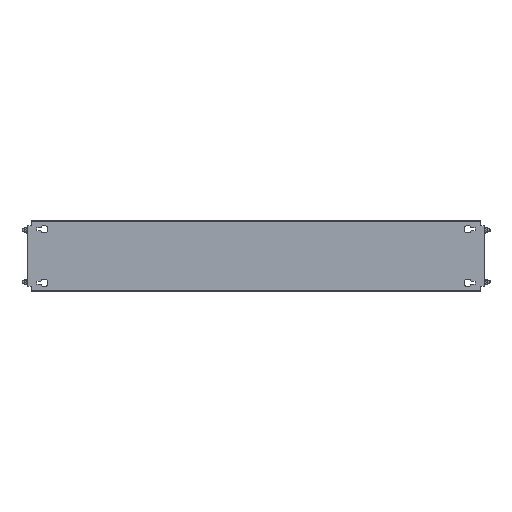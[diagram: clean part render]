
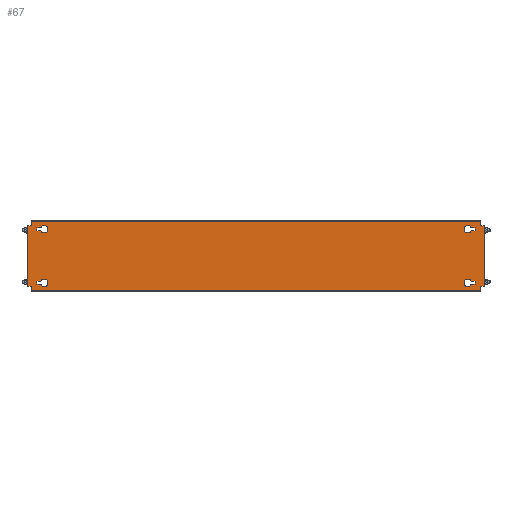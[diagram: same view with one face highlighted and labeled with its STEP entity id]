
A CAD part, top view. The second image highlights one B-rep face of the part: STEP entity #67.
In plain terms, the highlighted planar face has unit normal (0, 0, 1).
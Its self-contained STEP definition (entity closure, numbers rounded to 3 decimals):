
#67 = ADVANCED_FACE('',(#68,#103,#138,#300,#335),#370,.T.);
#68 = FACE_BOUND('',#69,.T.);
#69 = EDGE_LOOP('',(#70,#80,#88,#96));
#70 = ORIENTED_EDGE('',*,*,#71,.T.);
#71 = EDGE_CURVE('',#72,#74,#76,.T.);
#72 = VERTEX_POINT('',#73);
#73 = CARTESIAN_POINT('',(518.393,67.75,2.5));
#74 = VERTEX_POINT('',#75);
#75 = CARTESIAN_POINT('',(528.,67.75,2.5));
#76 = LINE('',#77,#78);
#77 = CARTESIAN_POINT('',(527.,67.75,2.5));
#78 = VECTOR('',#79,1.);
#79 = DIRECTION('',(1.,0.,0.));
#80 = ORIENTED_EDGE('',*,*,#81,.T.);
#81 = EDGE_CURVE('',#74,#82,#84,.T.);
#82 = VERTEX_POINT('',#83);
#83 = CARTESIAN_POINT('',(528.,61.25,2.5));
#84 = LINE('',#85,#86);
#85 = CARTESIAN_POINT('',(528.,67.75,2.5));
#86 = VECTOR('',#87,1.);
#87 = DIRECTION('',(0.,-1.,0.));
#88 = ORIENTED_EDGE('',*,*,#89,.T.);
#89 = EDGE_CURVE('',#82,#90,#92,.T.);
#90 = VERTEX_POINT('',#91);
#91 = CARTESIAN_POINT('',(518.393,61.25,2.5));
#92 = LINE('',#93,#94);
#93 = CARTESIAN_POINT('',(527.,61.25,2.5));
#94 = VECTOR('',#95,1.);
#95 = DIRECTION('',(-1.,0.,0.));
#96 = ORIENTED_EDGE('',*,*,#97,.T.);
#97 = EDGE_CURVE('',#90,#72,#98,.T.);
#98 = CIRCLE('',#99,9.);
#99 = AXIS2_PLACEMENT_3D('',#100,#101,#102);
#100 = CARTESIAN_POINT('',(510.,64.5,2.5));
#101 = DIRECTION('',(0.,0.,-1.));
#102 = DIRECTION('',(1.,0.,0.));
#103 = FACE_BOUND('',#104,.T.);
#104 = EDGE_LOOP('',(#105,#115,#123,#131));
#105 = ORIENTED_EDGE('',*,*,#106,.T.);
#106 = EDGE_CURVE('',#107,#109,#111,.T.);
#107 = VERTEX_POINT('',#108);
#108 = CARTESIAN_POINT('',(-518.393,-67.75,2.5));
#109 = VERTEX_POINT('',#110);
#110 = CARTESIAN_POINT('',(-528.,-67.75,2.5));
#111 = LINE('',#112,#113);
#112 = CARTESIAN_POINT('',(-527.,-67.75,2.5));
#113 = VECTOR('',#114,1.);
#114 = DIRECTION('',(-1.,0.,0.));
#115 = ORIENTED_EDGE('',*,*,#116,.T.);
#116 = EDGE_CURVE('',#109,#117,#119,.T.);
#117 = VERTEX_POINT('',#118);
#118 = CARTESIAN_POINT('',(-528.,-61.25,2.5));
#119 = LINE('',#120,#121);
#120 = CARTESIAN_POINT('',(-528.,-67.75,2.5));
#121 = VECTOR('',#122,1.);
#122 = DIRECTION('',(0.,1.,0.));
#123 = ORIENTED_EDGE('',*,*,#124,.T.);
#124 = EDGE_CURVE('',#117,#125,#127,.T.);
#125 = VERTEX_POINT('',#126);
#126 = CARTESIAN_POINT('',(-518.393,-61.25,2.5));
#127 = LINE('',#128,#129);
#128 = CARTESIAN_POINT('',(-527.,-61.25,2.5));
#129 = VECTOR('',#130,1.);
#130 = DIRECTION('',(1.,-0.,-0.));
#131 = ORIENTED_EDGE('',*,*,#132,.T.);
#132 = EDGE_CURVE('',#125,#107,#133,.T.);
#133 = CIRCLE('',#134,9.);
#134 = AXIS2_PLACEMENT_3D('',#135,#136,#137);
#135 = CARTESIAN_POINT('',(-510.,-64.5,2.5));
#136 = DIRECTION('',(0.,0.,-1.));
#137 = DIRECTION('',(-1.,0.,0.));
#138 = FACE_BOUND('',#139,.T.);
#139 = EDGE_LOOP('',(#140,#150,#158,#166,#174,#182,#190,#198,#206,#214,
    #222,#230,#238,#246,#254,#262,#270,#278,#286,#294));
#140 = ORIENTED_EDGE('',*,*,#141,.F.);
#141 = EDGE_CURVE('',#142,#144,#146,.T.);
#142 = VERTEX_POINT('',#143);
#143 = CARTESIAN_POINT('',(-546.9,72.5,2.5));
#144 = VERTEX_POINT('',#145);
#145 = CARTESIAN_POINT('',(-541.5,72.5,2.5));
#146 = LINE('',#147,#148);
#147 = CARTESIAN_POINT('',(-547.5,72.5,2.5));
#148 = VECTOR('',#149,1.);
#149 = DIRECTION('',(1.,0.,-0.));
#150 = ORIENTED_EDGE('',*,*,#151,.T.);
#151 = EDGE_CURVE('',#142,#152,#154,.T.);
#152 = VERTEX_POINT('',#153);
#153 = CARTESIAN_POINT('',(-550.,72.5,2.5));
#154 = LINE('',#155,#156);
#155 = CARTESIAN_POINT('',(-546.9,72.5,2.5));
#156 = VECTOR('',#157,1.);
#157 = DIRECTION('',(-1.,0.,0.));
#158 = ORIENTED_EDGE('',*,*,#159,.F.);
#159 = EDGE_CURVE('',#160,#152,#162,.T.);
#160 = VERTEX_POINT('',#161);
#161 = CARTESIAN_POINT('',(-550.,-72.5,2.5));
#162 = LINE('',#163,#164);
#163 = CARTESIAN_POINT('',(-550.,-82.,2.5));
#164 = VECTOR('',#165,1.);
#165 = DIRECTION('',(-0.,1.,-0.));
#166 = ORIENTED_EDGE('',*,*,#167,.F.);
#167 = EDGE_CURVE('',#168,#160,#170,.T.);
#168 = VERTEX_POINT('',#169);
#169 = CARTESIAN_POINT('',(-546.9,-72.5,2.5));
#170 = LINE('',#171,#172);
#171 = CARTESIAN_POINT('',(-541.5,-72.5,2.5));
#172 = VECTOR('',#173,1.);
#173 = DIRECTION('',(-1.,-0.,-0.));
#174 = ORIENTED_EDGE('',*,*,#175,.T.);
#175 = EDGE_CURVE('',#168,#176,#178,.T.);
#176 = VERTEX_POINT('',#177);
#177 = CARTESIAN_POINT('',(-541.5,-72.5,2.5));
#178 = LINE('',#179,#180);
#179 = CARTESIAN_POINT('',(-547.5,-72.5,2.5));
#180 = VECTOR('',#181,1.);
#181 = DIRECTION('',(1.,0.,-0.));
#182 = ORIENTED_EDGE('',*,*,#183,.T.);
#183 = EDGE_CURVE('',#176,#184,#186,.T.);
#184 = VERTEX_POINT('',#185);
#185 = CARTESIAN_POINT('',(-541.5,-81.4,2.5));
#186 = LINE('',#187,#188);
#187 = CARTESIAN_POINT('',(-541.5,82.,2.5));
#188 = VECTOR('',#189,1.);
#189 = DIRECTION('',(0.,-1.,0.));
#190 = ORIENTED_EDGE('',*,*,#191,.T.);
#191 = EDGE_CURVE('',#184,#192,#194,.T.);
#192 = VERTEX_POINT('',#193);
#193 = CARTESIAN_POINT('',(-541.5,-82.,2.5));
#194 = LINE('',#195,#196);
#195 = CARTESIAN_POINT('',(-541.5,-81.4,2.5));
#196 = VECTOR('',#197,1.);
#197 = DIRECTION('',(-0.,-1.,-0.));
#198 = ORIENTED_EDGE('',*,*,#199,.T.);
#199 = EDGE_CURVE('',#192,#200,#202,.T.);
#200 = VERTEX_POINT('',#201);
#201 = CARTESIAN_POINT('',(541.5,-82.,2.5));
#202 = LINE('',#203,#204);
#203 = CARTESIAN_POINT('',(541.5,-82.,2.5));
#204 = VECTOR('',#205,1.);
#205 = DIRECTION('',(1.,0.,0.));
#206 = ORIENTED_EDGE('',*,*,#207,.F.);
#207 = EDGE_CURVE('',#208,#200,#210,.T.);
#208 = VERTEX_POINT('',#209);
#209 = CARTESIAN_POINT('',(541.5,-81.4,2.5));
#210 = LINE('',#211,#212);
#211 = CARTESIAN_POINT('',(541.5,-82.,2.5));
#212 = VECTOR('',#213,1.);
#213 = DIRECTION('',(0.,-1.,0.));
#214 = ORIENTED_EDGE('',*,*,#215,.T.);
#215 = EDGE_CURVE('',#208,#216,#218,.T.);
#216 = VERTEX_POINT('',#217);
#217 = CARTESIAN_POINT('',(541.5,-72.5,2.5));
#218 = LINE('',#219,#220);
#219 = CARTESIAN_POINT('',(541.5,82.,2.5));
#220 = VECTOR('',#221,1.);
#221 = DIRECTION('',(-0.,1.,-0.));
#222 = ORIENTED_EDGE('',*,*,#223,.F.);
#223 = EDGE_CURVE('',#224,#216,#226,.T.);
#224 = VERTEX_POINT('',#225);
#225 = CARTESIAN_POINT('',(546.9,-72.5,2.5));
#226 = LINE('',#227,#228);
#227 = CARTESIAN_POINT('',(547.5,-72.5,2.5));
#228 = VECTOR('',#229,1.);
#229 = DIRECTION('',(-1.,0.,-0.));
#230 = ORIENTED_EDGE('',*,*,#231,.T.);
#231 = EDGE_CURVE('',#224,#232,#234,.T.);
#232 = VERTEX_POINT('',#233);
#233 = CARTESIAN_POINT('',(550.,-72.5,2.5));
#234 = LINE('',#235,#236);
#235 = CARTESIAN_POINT('',(546.9,-72.5,2.5));
#236 = VECTOR('',#237,1.);
#237 = DIRECTION('',(1.,-0.,0.));
#238 = ORIENTED_EDGE('',*,*,#239,.F.);
#239 = EDGE_CURVE('',#240,#232,#242,.T.);
#240 = VERTEX_POINT('',#241);
#241 = CARTESIAN_POINT('',(550.,72.5,2.5));
#242 = LINE('',#243,#244);
#243 = CARTESIAN_POINT('',(550.,-82.,2.5));
#244 = VECTOR('',#245,1.);
#245 = DIRECTION('',(-0.,-1.,0.));
#246 = ORIENTED_EDGE('',*,*,#247,.F.);
#247 = EDGE_CURVE('',#248,#240,#250,.T.);
#248 = VERTEX_POINT('',#249);
#249 = CARTESIAN_POINT('',(546.9,72.5,2.5));
#250 = LINE('',#251,#252);
#251 = CARTESIAN_POINT('',(-541.5,72.5,2.5));
#252 = VECTOR('',#253,1.);
#253 = DIRECTION('',(1.,-0.,0.));
#254 = ORIENTED_EDGE('',*,*,#255,.T.);
#255 = EDGE_CURVE('',#248,#256,#258,.T.);
#256 = VERTEX_POINT('',#257);
#257 = CARTESIAN_POINT('',(541.5,72.5,2.5));
#258 = LINE('',#259,#260);
#259 = CARTESIAN_POINT('',(547.5,72.5,2.5));
#260 = VECTOR('',#261,1.);
#261 = DIRECTION('',(-1.,0.,-0.));
#262 = ORIENTED_EDGE('',*,*,#263,.T.);
#263 = EDGE_CURVE('',#256,#264,#266,.T.);
#264 = VERTEX_POINT('',#265);
#265 = CARTESIAN_POINT('',(541.5,81.4,2.5));
#266 = LINE('',#267,#268);
#267 = CARTESIAN_POINT('',(541.5,82.,2.5));
#268 = VECTOR('',#269,1.);
#269 = DIRECTION('',(-0.,1.,-0.));
#270 = ORIENTED_EDGE('',*,*,#271,.T.);
#271 = EDGE_CURVE('',#264,#272,#274,.T.);
#272 = VERTEX_POINT('',#273);
#273 = CARTESIAN_POINT('',(541.5,82.,2.5));
#274 = LINE('',#275,#276);
#275 = CARTESIAN_POINT('',(541.5,81.4,2.5));
#276 = VECTOR('',#277,1.);
#277 = DIRECTION('',(-0.,1.,-0.));
#278 = ORIENTED_EDGE('',*,*,#279,.T.);
#279 = EDGE_CURVE('',#272,#280,#282,.T.);
#280 = VERTEX_POINT('',#281);
#281 = CARTESIAN_POINT('',(-541.5,82.,2.5));
#282 = LINE('',#283,#284);
#283 = CARTESIAN_POINT('',(-541.5,82.,2.5));
#284 = VECTOR('',#285,1.);
#285 = DIRECTION('',(-1.,0.,0.));
#286 = ORIENTED_EDGE('',*,*,#287,.F.);
#287 = EDGE_CURVE('',#288,#280,#290,.T.);
#288 = VERTEX_POINT('',#289);
#289 = CARTESIAN_POINT('',(-541.5,81.4,2.5));
#290 = LINE('',#291,#292);
#291 = CARTESIAN_POINT('',(-541.5,-82.,2.5));
#292 = VECTOR('',#293,1.);
#293 = DIRECTION('',(0.,1.,-0.));
#294 = ORIENTED_EDGE('',*,*,#295,.T.);
#295 = EDGE_CURVE('',#288,#144,#296,.T.);
#296 = LINE('',#297,#298);
#297 = CARTESIAN_POINT('',(-541.5,82.,2.5));
#298 = VECTOR('',#299,1.);
#299 = DIRECTION('',(0.,-1.,0.));
#300 = FACE_BOUND('',#301,.T.);
#301 = EDGE_LOOP('',(#302,#312,#320,#328));
#302 = ORIENTED_EDGE('',*,*,#303,.F.);
#303 = EDGE_CURVE('',#304,#306,#308,.T.);
#304 = VERTEX_POINT('',#305);
#305 = CARTESIAN_POINT('',(528.,-61.25,2.5));
#306 = VERTEX_POINT('',#307);
#307 = CARTESIAN_POINT('',(518.393,-61.25,2.5));
#308 = LINE('',#309,#310);
#309 = CARTESIAN_POINT('',(518.393,-61.25,2.5));
#310 = VECTOR('',#311,1.);
#311 = DIRECTION('',(-1.,0.,0.));
#312 = ORIENTED_EDGE('',*,*,#313,.F.);
#313 = EDGE_CURVE('',#314,#304,#316,.T.);
#314 = VERTEX_POINT('',#315);
#315 = CARTESIAN_POINT('',(528.,-67.75,2.5));
#316 = LINE('',#317,#318);
#317 = CARTESIAN_POINT('',(528.,-61.25,2.5));
#318 = VECTOR('',#319,1.);
#319 = DIRECTION('',(0.,1.,0.));
#320 = ORIENTED_EDGE('',*,*,#321,.F.);
#321 = EDGE_CURVE('',#322,#314,#324,.T.);
#322 = VERTEX_POINT('',#323);
#323 = CARTESIAN_POINT('',(518.393,-67.75,2.5));
#324 = LINE('',#325,#326);
#325 = CARTESIAN_POINT('',(527.,-67.75,2.5));
#326 = VECTOR('',#327,1.);
#327 = DIRECTION('',(1.,0.,0.));
#328 = ORIENTED_EDGE('',*,*,#329,.F.);
#329 = EDGE_CURVE('',#306,#322,#330,.T.);
#330 = CIRCLE('',#331,9.);
#331 = AXIS2_PLACEMENT_3D('',#332,#333,#334);
#332 = CARTESIAN_POINT('',(510.,-64.5,2.5));
#333 = DIRECTION('',(0.,-0.,1.));
#334 = DIRECTION('',(1.,0.,0.));
#335 = FACE_BOUND('',#336,.T.);
#336 = EDGE_LOOP('',(#337,#347,#355,#363));
#337 = ORIENTED_EDGE('',*,*,#338,.F.);
#338 = EDGE_CURVE('',#339,#341,#343,.T.);
#339 = VERTEX_POINT('',#340);
#340 = CARTESIAN_POINT('',(-528.,61.25,2.5));
#341 = VERTEX_POINT('',#342);
#342 = CARTESIAN_POINT('',(-518.393,61.25,2.5));
#343 = LINE('',#344,#345);
#344 = CARTESIAN_POINT('',(-518.393,61.25,2.5));
#345 = VECTOR('',#346,1.);
#346 = DIRECTION('',(1.,0.,0.));
#347 = ORIENTED_EDGE('',*,*,#348,.F.);
#348 = EDGE_CURVE('',#349,#339,#351,.T.);
#349 = VERTEX_POINT('',#350);
#350 = CARTESIAN_POINT('',(-528.,67.75,2.5));
#351 = LINE('',#352,#353);
#352 = CARTESIAN_POINT('',(-528.,61.25,2.5));
#353 = VECTOR('',#354,1.);
#354 = DIRECTION('',(0.,-1.,0.));
#355 = ORIENTED_EDGE('',*,*,#356,.F.);
#356 = EDGE_CURVE('',#357,#349,#359,.T.);
#357 = VERTEX_POINT('',#358);
#358 = CARTESIAN_POINT('',(-518.393,67.75,2.5));
#359 = LINE('',#360,#361);
#360 = CARTESIAN_POINT('',(-527.,67.75,2.5));
#361 = VECTOR('',#362,1.);
#362 = DIRECTION('',(-1.,0.,0.));
#363 = ORIENTED_EDGE('',*,*,#364,.F.);
#364 = EDGE_CURVE('',#341,#357,#365,.T.);
#365 = CIRCLE('',#366,9.);
#366 = AXIS2_PLACEMENT_3D('',#367,#368,#369);
#367 = CARTESIAN_POINT('',(-510.,64.5,2.5));
#368 = DIRECTION('',(0.,-0.,1.));
#369 = DIRECTION('',(-1.,0.,0.));
#370 = PLANE('',#371);
#371 = AXIS2_PLACEMENT_3D('',#372,#373,#374);
#372 = CARTESIAN_POINT('',(-541.5,-82.,2.5));
#373 = DIRECTION('',(-0.,0.,1.));
#374 = DIRECTION('',(1.,0.,0.));
